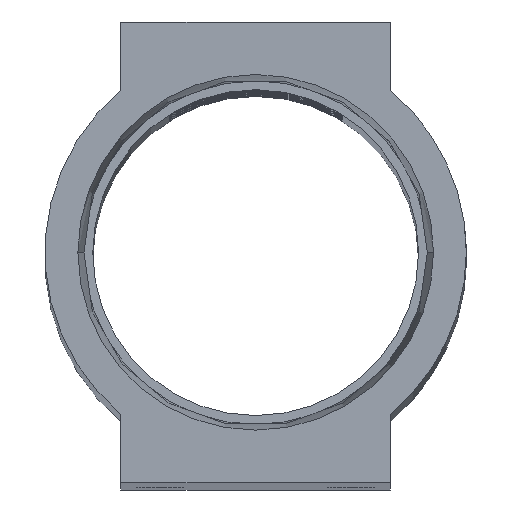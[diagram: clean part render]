
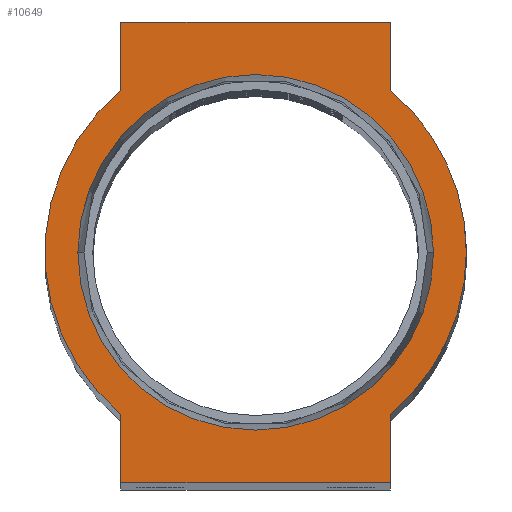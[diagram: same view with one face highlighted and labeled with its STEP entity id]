
A CAD part, top view. The second image highlights one B-rep face of the part: STEP entity #10649.
In plain terms, the highlighted planar face has unit normal (0, 0, 1).
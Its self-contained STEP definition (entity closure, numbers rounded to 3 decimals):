
#63 = CARTESIAN_POINT ( 'NONE',  ( -12., 20.5, 0. ) ) ;
#101 = CARTESIAN_POINT ( 'NONE',  ( -12., 20.5, 0. ) ) ;
#140 = ORIENTED_EDGE ( 'NONE', *, *, #754, .T. ) ;
#351 = ORIENTED_EDGE ( 'NONE', *, *, #9394, .F. ) ;
#460 = CARTESIAN_POINT ( 'NONE',  ( 18.75, 0., 0. ) ) ;
#482 = VERTEX_POINT ( 'NONE', #2575 ) ;
#566 = DIRECTION ( 'NONE',  ( 1., 0., 0. ) ) ;
#674 = VECTOR ( 'NONE', #4896, 1000. ) ;
#731 = AXIS2_PLACEMENT_3D ( 'NONE', #7130, #9274, #2017 ) ;
#754 = EDGE_CURVE ( 'NONE', #11481, #8164, #7726, .T. ) ;
#851 = EDGE_CURVE ( 'NONE', #11116, #7496, #7278, .T. ) ;
#942 = CARTESIAN_POINT ( 'NONE',  ( -12., -20.5, 0. ) ) ;
#989 = CARTESIAN_POINT ( 'NONE',  ( 12., -14.407, 0. ) ) ;
#1155 = LINE ( 'NONE', #4240, #3644 ) ;
#1339 = VECTOR ( 'NONE', #7395, 1000. ) ;
#1487 = CARTESIAN_POINT ( 'NONE',  ( 12., 14.407, 0. ) ) ;
#1619 = VERTEX_POINT ( 'NONE', #989 ) ;
#1770 = DIRECTION ( 'NONE',  ( 1., 0., 0. ) ) ;
#2017 = DIRECTION ( 'NONE',  ( 1., 0., 0. ) ) ;
#2035 = CARTESIAN_POINT ( 'NONE',  ( 12., 20.5, 0. ) ) ;
#2121 = LINE ( 'NONE', #63, #674 ) ;
#2177 = EDGE_CURVE ( 'NONE', #482, #7058, #9942, .T. ) ;
#2224 = CARTESIAN_POINT ( 'NONE',  ( 0., 0., 0. ) ) ;
#2575 = CARTESIAN_POINT ( 'NONE',  ( -15.827, 0., 0. ) ) ;
#2620 = EDGE_CURVE ( 'NONE', #10342, #6392, #9540, .T. ) ;
#2719 = DIRECTION ( 'NONE',  ( 0., 0., 1. ) ) ;
#2917 = CARTESIAN_POINT ( 'NONE',  ( 0., 0., 0. ) ) ;
#3240 = CARTESIAN_POINT ( 'NONE',  ( -12., 20.5, 0. ) ) ;
#3254 = EDGE_CURVE ( 'NONE', #7496, #6182, #1155, .T. ) ;
#3644 = VECTOR ( 'NONE', #10108, 1000. ) ;
#3972 = EDGE_LOOP ( 'NONE', ( #351, #13161 ) ) ;
#4240 = CARTESIAN_POINT ( 'NONE',  ( 12., 20.5, 0. ) ) ;
#4273 = AXIS2_PLACEMENT_3D ( 'NONE', #2224, #9765, #566 ) ;
#4750 = ORIENTED_EDGE ( 'NONE', *, *, #7114, .T. ) ;
#4896 = DIRECTION ( 'NONE',  ( 0., -1., 0. ) ) ;
#5027 = DIRECTION ( 'NONE',  ( 0., -1., 0. ) ) ;
#5156 = VECTOR ( 'NONE', #8424, 1000. ) ;
#5253 = PLANE ( 'NONE',  #731 ) ;
#5309 = ORIENTED_EDGE ( 'NONE', *, *, #7437, .T. ) ;
#5364 = CIRCLE ( 'NONE', #7087, 15.827 ) ;
#5706 = ORIENTED_EDGE ( 'NONE', *, *, #8578, .T. ) ;
#5883 = CARTESIAN_POINT ( 'NONE',  ( -12., 14.407, 0. ) ) ;
#5930 = ORIENTED_EDGE ( 'NONE', *, *, #9182, .T. ) ;
#6182 = VERTEX_POINT ( 'NONE', #2035 ) ;
#6280 = LINE ( 'NONE', #942, #10497 ) ;
#6392 = VERTEX_POINT ( 'NONE', #10903 ) ;
#6438 = VERTEX_POINT ( 'NONE', #3240 ) ;
#7019 = DIRECTION ( 'NONE',  ( 1., 0., 0. ) ) ;
#7058 = VERTEX_POINT ( 'NONE', #8101 ) ;
#7087 = AXIS2_PLACEMENT_3D ( 'NONE', #8145, #8209, #7019 ) ;
#7114 = EDGE_CURVE ( 'NONE', #6438, #11481, #2121, .T. ) ;
#7130 = CARTESIAN_POINT ( 'NONE',  ( 0., 0., 0. ) ) ;
#7192 = FACE_OUTER_BOUND ( 'NONE', #13004, .T. ) ;
#7278 = CIRCLE ( 'NONE', #12455, 18.75 ) ;
#7395 = DIRECTION ( 'NONE',  ( 1., 0., 0. ) ) ;
#7437 = EDGE_CURVE ( 'NONE', #1619, #11116, #7466, .T. ) ;
#7466 = CIRCLE ( 'NONE', #4273, 18.75 ) ;
#7496 = VERTEX_POINT ( 'NONE', #1487 ) ;
#7726 = CIRCLE ( 'NONE', #8812, 18.75 ) ;
#8091 = DIRECTION ( 'NONE',  ( 0., 0., 1. ) ) ;
#8101 = CARTESIAN_POINT ( 'NONE',  ( 15.827, 0., 0. ) ) ;
#8129 = ORIENTED_EDGE ( 'NONE', *, *, #3254, .T. ) ;
#8130 = FACE_BOUND ( 'NONE', #3972, .T. ) ;
#8145 = CARTESIAN_POINT ( 'NONE',  ( 0., 0., 0. ) ) ;
#8164 = VERTEX_POINT ( 'NONE', #11933 ) ;
#8209 = DIRECTION ( 'NONE',  ( 0., 0., 1. ) ) ;
#8271 = EDGE_CURVE ( 'NONE', #6182, #6438, #10293, .T. ) ;
#8401 = AXIS2_PLACEMENT_3D ( 'NONE', #12154, #13268, #10067 ) ;
#8424 = DIRECTION ( 'NONE',  ( 0., 1., 0. ) ) ;
#8466 = CARTESIAN_POINT ( 'NONE',  ( -12., -20.5, 0. ) ) ;
#8578 = EDGE_CURVE ( 'NONE', #8164, #10342, #6280, .T. ) ;
#8812 = AXIS2_PLACEMENT_3D ( 'NONE', #13019, #8091, #13149 ) ;
#9182 = EDGE_CURVE ( 'NONE', #6392, #1619, #12811, .T. ) ;
#9274 = DIRECTION ( 'NONE',  ( 0., 0., 1. ) ) ;
#9394 = EDGE_CURVE ( 'NONE', #7058, #482, #5364, .T. ) ;
#9540 = LINE ( 'NONE', #8466, #1339 ) ;
#9556 = ORIENTED_EDGE ( 'NONE', *, *, #851, .T. ) ;
#9765 = DIRECTION ( 'NONE',  ( 0., 0., 1. ) ) ;
#9942 = CIRCLE ( 'NONE', #8401, 15.827 ) ;
#10027 = ORIENTED_EDGE ( 'NONE', *, *, #8271, .T. ) ;
#10067 = DIRECTION ( 'NONE',  ( 1., 0., 0. ) ) ;
#10108 = DIRECTION ( 'NONE',  ( 0., 1., 0. ) ) ;
#10293 = LINE ( 'NONE', #101, #12211 ) ;
#10342 = VERTEX_POINT ( 'NONE', #12697 ) ;
#10487 = DIRECTION ( 'NONE',  ( -1., 0., 0. ) ) ;
#10497 = VECTOR ( 'NONE', #5027, 1000. ) ;
#10649 = ADVANCED_FACE ( 'NONE', ( #8130, #7192 ), #5253, .T. ) ;
#10903 = CARTESIAN_POINT ( 'NONE',  ( 12., -20.5, 0. ) ) ;
#11116 = VERTEX_POINT ( 'NONE', #460 ) ;
#11159 = ORIENTED_EDGE ( 'NONE', *, *, #2620, .T. ) ;
#11481 = VERTEX_POINT ( 'NONE', #5883 ) ;
#11805 = CARTESIAN_POINT ( 'NONE',  ( 12., -20.5, 0. ) ) ;
#11933 = CARTESIAN_POINT ( 'NONE',  ( -12., -14.407, 0. ) ) ;
#12154 = CARTESIAN_POINT ( 'NONE',  ( 0., 0., 0. ) ) ;
#12211 = VECTOR ( 'NONE', #10487, 1000. ) ;
#12455 = AXIS2_PLACEMENT_3D ( 'NONE', #2917, #2719, #1770 ) ;
#12697 = CARTESIAN_POINT ( 'NONE',  ( -12., -20.5, 0. ) ) ;
#12811 = LINE ( 'NONE', #11805, #5156 ) ;
#13004 = EDGE_LOOP ( 'NONE', ( #8129, #10027, #4750, #140, #5706, #11159, #5930, #5309, #9556 ) ) ;
#13019 = CARTESIAN_POINT ( 'NONE',  ( 0., 0., 0. ) ) ;
#13149 = DIRECTION ( 'NONE',  ( 1., 0., 0. ) ) ;
#13161 = ORIENTED_EDGE ( 'NONE', *, *, #2177, .F. ) ;
#13268 = DIRECTION ( 'NONE',  ( 0., 0., 1. ) ) ;
